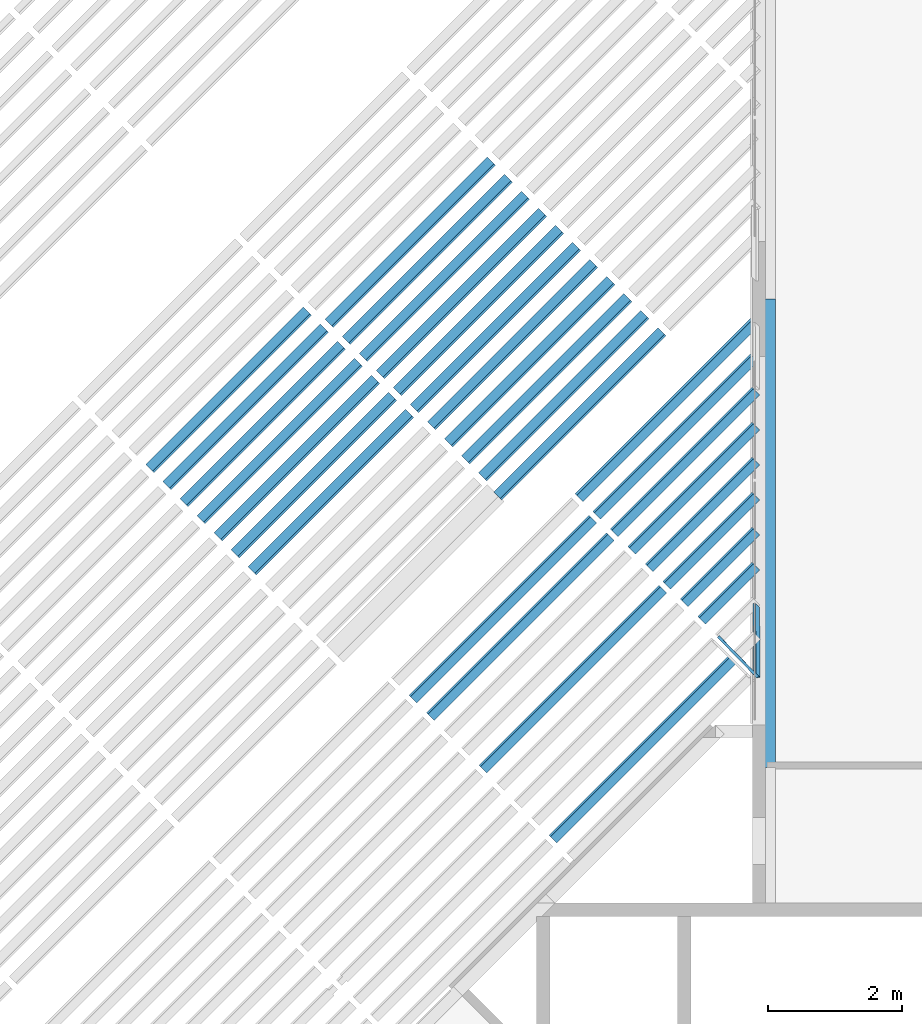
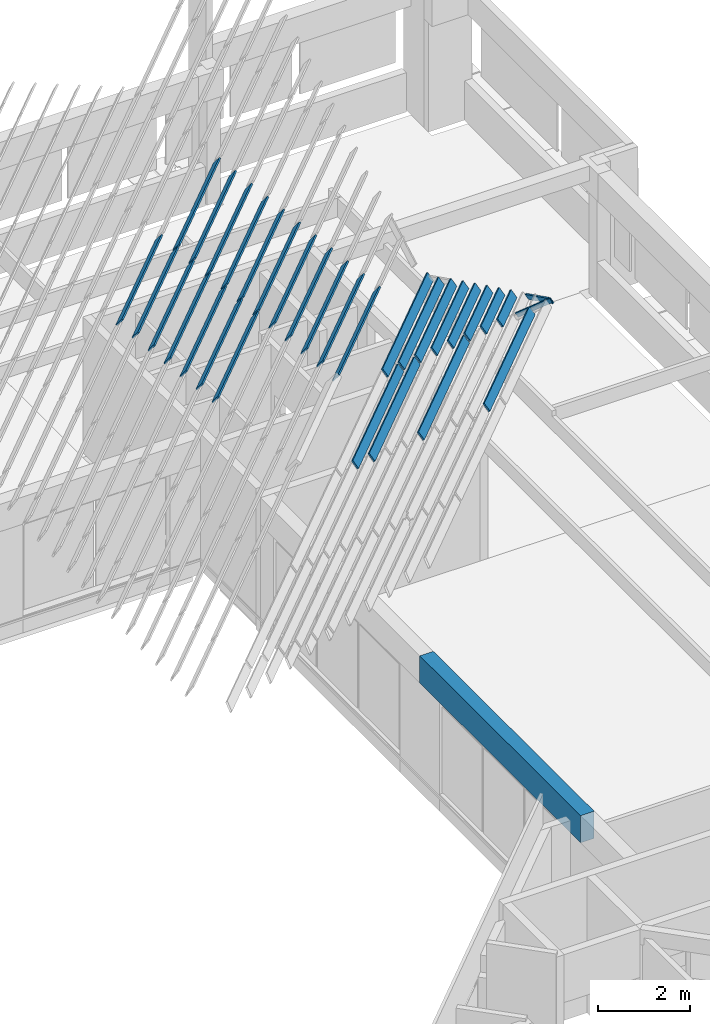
# One storey, part 10 of 37: 33 beams.
"""IFC4X3_ADD2 building model written with IfcOpenShell, lengths in millimetres."""

from ifc_helpers import new_model, si_unit, direction, frame, frame_2d, origin_with_axes, origin_2d_with_axis, place, context, subcontext, project, spatial, rectangle, extrude, source, transform, mapped, material, type_object, type_shapes, element, save


model = new_model("IFC4X3_ADD2")

# Units and contexts
model_context = context("Model", 3, precision=1e-05, world=origin_with_axes(), true_north=direction((0.0, 1.0)))
body_context = subcontext(model_context, "Body", "Model", "MODEL_VIEW")
ifc_project = project(units=[si_unit("LENGTHUNIT", "METRE", prefix="MILLI"), si_unit("AREAUNIT", "SQUARE_METRE"), si_unit("VOLUMEUNIT", "CUBIC_METRE"), si_unit("PLANEANGLEUNIT", "RADIAN"), si_unit("TIMEUNIT", "SECOND"), si_unit("MASSUNIT", "GRAM")], contexts=[model_context])

# Site, building, storey
site_placement = place(None, origin_with_axes())
site = spatial("IfcSite", under=ifc_project, at=site_placement, Name="Site", CompositionType="ELEMENT")
building_placement = place(site_placement, origin_with_axes())
building = spatial("IfcBuilding", under=site, at=building_placement, Name="IFC Building Story")
storey_placement = place(building_placement, frame((0.0, 0.0, 3600.0), z_axis=(0.0, 0.0, 1.0), x_axis=(1.0, 0.0, 0.0)))
storey = spatial("IfcBuildingStorey", under=building, at=storey_placement, Name="010", Elevation=3600.0)

# Beams
ifc_material_1 = material(Name="BB_Beton_Bestaand")
beam_type_1 = type_object("IfcBeamType", Name="BB_XX_Betonbalk_ rechthoekig_ center-center_SFB_340 x 720 mm145", PredefinedType="NOTDEFINED")
shared_shape_1 = source(origin_with_axes(), body_context, "Body", "SweptSolid", [
    extrude(rectangle(XDim=6979.999999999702, YDim=340.0, at=frame_2d((0.0, 0.0), x_axis=(0.0, 1.0))), frame((-12525.0, 25609.99999999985, 6280.0), z_axis=(0.0, 0.0, 1.0), x_axis=(1.0, 0.0, 0.0)), (0.0, 0.0, 1.0), 720.0),
])
type_shapes(beam_type_1, [shared_shape_1])
beam_1_placement = place(storey_placement, frame((0.0, 0.0, -3600.0), z_axis=(0.0, 0.0, 1.0), x_axis=(1.0, 0.0, 0.0)))
element("IfcBeam", 1, at=beam_1_placement, inside=storey, type_object=beam_type_1, material=ifc_material_1, Name="BB_XX_Betonbalk, rechthoekig, center-center_SFB:340 x 720 mm", ObjectType="340 x 720 mm", PredefinedType="BEAM", context=body_context, shape_type="MappedRepresentation", body=[
    mapped(shared_shape_1, transform((0.0, 0.0, 0.0))),
])
ifc_material_2 = material(Name="GVH_i2_naaldhout_generiek")
beam_type_2 = type_object("IfcBeamType", Name="28_SF_hout_rechthoekig_40 x 230_441", PredefinedType="NOTDEFINED")
shared_shape_2 = source(origin_with_axes(), body_context, "Body", "SweptSolid", [
    extrude(rectangle(XDim=3317.27999998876, YDim=40.0000000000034, at=origin_2d_with_axis()), frame((-36.38452901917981, 0.0, -115.0), z_axis=(0.0, 0.0, 1.0), x_axis=(1.0, 0.0, 0.0)), (0.0, 0.0, 1.0), 230.0),
])
type_shapes(beam_type_2, [shared_shape_2])
beam_2_placement = place(storey_placement, frame((-18998.8605097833, 26196.541294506, 15245.0766914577), z_axis=(0.4307932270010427, -0.4307932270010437, 0.7929907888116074), x_axis=(-0.7071067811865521, -0.707106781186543, 0.0)))
element("IfcBeam", 2, at=beam_2_placement, inside=storey, type_object=beam_type_2, material=ifc_material_2, Name="28_SF_hout_rechthoekig:40 x 230", ObjectType="40 x 230", PredefinedType="BEAM", context=body_context, shape_type="MappedRepresentation", body=[
    mapped(shared_shape_2, transform((0.0, 0.0, 0.0))),
])
beam_type_3 = type_object("IfcBeamType", Name="28_SF_hout_rechthoekig_40 x 230_443", PredefinedType="NOTDEFINED")
shared_shape_3 = source(origin_with_axes(), body_context, "Body", "SweptSolid", [
    extrude(rectangle(XDim=3317.279999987, YDim=40.0000000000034, at=origin_2d_with_axis()), frame((-36.38447795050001, 0.0, -115.0), z_axis=(0.0, 0.0, 1.0), x_axis=(1.0, 0.0, 0.0)), (0.0, 0.0, 1.0), 230.0),
])
type_shapes(beam_type_3, [shared_shape_3])
beam_3_placement = place(storey_placement, frame((-19252.87082116, 26450.5516058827, 15521.0595232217), z_axis=(0.4307932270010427, -0.4307932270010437, 0.7929907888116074), x_axis=(-0.7071067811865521, -0.707106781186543, 0.0)))
element("IfcBeam", 3, at=beam_3_placement, inside=storey, type_object=beam_type_3, material=ifc_material_2, Name="28_SF_hout_rechthoekig:40 x 230", ObjectType="40 x 230", PredefinedType="BEAM", context=body_context, shape_type="MappedRepresentation", body=[
    mapped(shared_shape_3, transform((0.0, 0.0, 0.0))),
])
beam_type_4 = type_object("IfcBeamType", Name="28_SF_hout_rechthoekig_40 x 230_445", PredefinedType="NOTDEFINED")
shared_shape_4 = source(origin_with_axes(), body_context, "Body", "SweptSolid", [
    extrude(rectangle(XDim=3317.27999998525, YDim=40.0000000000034, at=origin_2d_with_axis()), frame((-36.38442688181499, 0.0, -115.0), z_axis=(0.0, 0.0, 1.0), x_axis=(1.0, 0.0, 0.0)), (0.0, 0.0, 1.0), 230.0),
])
type_shapes(beam_type_4, [shared_shape_4])
beam_4_placement = place(storey_placement, frame((-19506.8811325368, 26704.5619172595, 15797.0423549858), z_axis=(0.4307932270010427, -0.4307932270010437, 0.7929907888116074), x_axis=(-0.7071067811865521, -0.707106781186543, 0.0)))
element("IfcBeam", 4, at=beam_4_placement, inside=storey, type_object=beam_type_4, material=ifc_material_2, Name="28_SF_hout_rechthoekig:40 x 230", ObjectType="40 x 230", PredefinedType="BEAM", context=body_context, shape_type="MappedRepresentation", body=[
    mapped(shared_shape_4, transform((0.0, 0.0, 0.0))),
])
beam_type_5 = type_object("IfcBeamType", Name="28_SF_hout_rechthoekig_40 x 230_447", PredefinedType="NOTDEFINED")
shared_shape_5 = source(origin_with_axes(), body_context, "Body", "SweptSolid", [
    extrude(rectangle(XDim=3317.27999998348, YDim=40.0000000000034, at=origin_2d_with_axis()), frame((-36.38437581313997, 0.0, -115.0), z_axis=(0.0, 0.0, 1.0), x_axis=(1.0, 0.0, 0.0)), (0.0, 0.0, 1.0), 230.0),
])
type_shapes(beam_type_5, [shared_shape_5])
beam_5_placement = place(storey_placement, frame((-19760.8914439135, 26958.5722286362, 16073.0251867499), z_axis=(0.4307932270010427, -0.4307932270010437, 0.7929907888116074), x_axis=(-0.7071067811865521, -0.707106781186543, 0.0)))
element("IfcBeam", 5, at=beam_5_placement, inside=storey, type_object=beam_type_5, material=ifc_material_2, Name="28_SF_hout_rechthoekig:40 x 230", ObjectType="40 x 230", PredefinedType="BEAM", context=body_context, shape_type="MappedRepresentation", body=[
    mapped(shared_shape_5, transform((0.0, 0.0, 0.0))),
])
beam_type_6 = type_object("IfcBeamType", Name="28_SF_hout_rechthoekig_40 x 230_449", PredefinedType="NOTDEFINED")
shared_shape_6 = source(origin_with_axes(), body_context, "Body", "SweptSolid", [
    extrude(rectangle(XDim=3317.27999998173, YDim=40.0000000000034, at=origin_2d_with_axis()), frame((-36.38432474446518, 0.0, -115.0), z_axis=(0.0, 0.0, 1.0), x_axis=(1.0, 0.0, 0.0)), (0.0, 0.0, 1.0), 230.0),
])
type_shapes(beam_type_6, [shared_shape_6])
beam_6_placement = place(storey_placement, frame((-20014.9017552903, 27212.582540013, 16349.008018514), z_axis=(0.4307932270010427, -0.4307932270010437, 0.7929907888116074), x_axis=(-0.7071067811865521, -0.707106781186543, 0.0)))
element("IfcBeam", 6, at=beam_6_placement, inside=storey, type_object=beam_type_6, material=ifc_material_2, Name="28_SF_hout_rechthoekig:40 x 230", ObjectType="40 x 230", PredefinedType="BEAM", context=body_context, shape_type="MappedRepresentation", body=[
    mapped(shared_shape_6, transform((0.0, 0.0, 0.0))),
])
beam_type_7 = type_object("IfcBeamType", Name="28_SF_hout_rechthoekig_40 x 230_451", PredefinedType="NOTDEFINED")
shared_shape_7 = source(origin_with_axes(), body_context, "Body", "SweptSolid", [
    extrude(rectangle(XDim=3317.27999997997, YDim=40.0000000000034, at=origin_2d_with_axis()), frame((-36.38427367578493, 0.0, -115.0), z_axis=(0.0, 0.0, 1.0), x_axis=(1.0, 0.0, 0.0)), (0.0, 0.0, 1.0), 230.0),
])
type_shapes(beam_type_7, [shared_shape_7])
beam_7_placement = place(storey_placement, frame((-20268.912066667, 27466.5928513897, 16624.9908502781), z_axis=(0.4307932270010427, -0.4307932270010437, 0.7929907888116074), x_axis=(-0.7071067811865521, -0.707106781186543, 0.0)))
element("IfcBeam", 7, at=beam_7_placement, inside=storey, type_object=beam_type_7, material=ifc_material_2, Name="28_SF_hout_rechthoekig:40 x 230", ObjectType="40 x 230", PredefinedType="BEAM", context=body_context, shape_type="MappedRepresentation", body=[
    mapped(shared_shape_7, transform((0.0, 0.0, 0.0))),
])
beam_type_8 = type_object("IfcBeamType", Name="28_SF_hout_rechthoekig_40 x 230_453", PredefinedType="NOTDEFINED")
shared_shape_8 = source(origin_with_axes(), body_context, "Body", "SweptSolid", [
    extrude(rectangle(XDim=3317.27999997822, YDim=40.0000000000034, at=origin_2d_with_axis()), frame((-36.3842226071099, 0.0, -115.0), z_axis=(0.0, 0.0, 1.0), x_axis=(1.0, 0.0, 0.0)), (0.0, 0.0, 1.0), 230.0),
])
type_shapes(beam_type_8, [shared_shape_8])
beam_8_placement = place(storey_placement, frame((-20522.9223780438, 27720.6031627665, 16900.9736820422), z_axis=(0.4307932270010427, -0.4307932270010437, 0.7929907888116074), x_axis=(-0.7071067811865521, -0.707106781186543, 0.0)))
element("IfcBeam", 8, at=beam_8_placement, inside=storey, type_object=beam_type_8, material=ifc_material_2, Name="28_SF_hout_rechthoekig:40 x 230", ObjectType="40 x 230", PredefinedType="BEAM", context=body_context, shape_type="MappedRepresentation", body=[
    mapped(shared_shape_8, transform((0.0, 0.0, 0.0))),
])
beam_type_9 = type_object("IfcBeamType", Name="28_SF_hout_rechthoekig_40 x 230_463", PredefinedType="NOTDEFINED")
shared_shape_9 = source(origin_with_axes(), body_context, "Body", "SweptSolid", [
    extrude(rectangle(XDim=3460.10208606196, YDim=40.0000000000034, at=origin_2d_with_axis()), frame((-2.751043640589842, 0.0, -115.0), z_axis=(0.0, 0.0, 1.0), x_axis=(1.0, 0.0, 0.0)), (0.0, 0.0, 1.0), 229.9999999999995),
])
type_shapes(beam_type_9, [shared_shape_9])
beam_9_placement = place(storey_placement, frame((-15269.7235665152, 27385.5751240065, 13865.1625326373), z_axis=(0.4307932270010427, -0.4307932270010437, 0.7929907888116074), x_axis=(-0.7071067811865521, -0.707106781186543, 0.0)))
element("IfcBeam", 9, at=beam_9_placement, inside=storey, type_object=beam_type_9, material=ifc_material_2, Name="28_SF_hout_rechthoekig:40 x 230", ObjectType="40 x 230", PredefinedType="BEAM", context=body_context, shape_type="MappedRepresentation", body=[
    mapped(shared_shape_9, transform((0.0, 0.0, 0.0))),
])
beam_type_10 = type_object("IfcBeamType", Name="28_SF_hout_rechthoekig_40 x 230_465", PredefinedType="NOTDEFINED")
shared_shape_10 = source(origin_with_axes(), body_context, "Body", "SweptSolid", [
    extrude(rectangle(XDim=3415.449257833, YDim=40.0000000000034, at=origin_2d_with_axis()), frame((-25.07745775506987, 0.0, -115.0), z_axis=(0.0, 0.0, 1.0), x_axis=(1.0, 0.0, 0.0)), (0.0, 0.0, 1.0), 229.9999999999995),
])
type_shapes(beam_type_10, [shared_shape_10])
beam_10_placement = place(storey_placement, frame((-15523.733877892, 27639.5854353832, 14141.1453644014), z_axis=(0.4307932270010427, -0.4307932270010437, 0.7929907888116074), x_axis=(-0.7071067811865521, -0.707106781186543, 0.0)))
element("IfcBeam", 10, at=beam_10_placement, inside=storey, type_object=beam_type_10, material=ifc_material_2, Name="28_SF_hout_rechthoekig:40 x 230", ObjectType="40 x 230", PredefinedType="BEAM", context=body_context, shape_type="MappedRepresentation", body=[
    mapped(shared_shape_10, transform((0.0, 0.0, 0.0))),
])
beam_type_11 = type_object("IfcBeamType", Name="28_SF_hout_rechthoekig_40 x 230_467", PredefinedType="NOTDEFINED")
shared_shape_11 = source(origin_with_axes(), body_context, "Body", "SweptSolid", [
    extrude(rectangle(XDim=3415.44930890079, YDim=40.0000000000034, at=origin_2d_with_axis()), frame((-25.07743222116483, 0.0, -115.0), z_axis=(0.0, 0.0, 1.0), x_axis=(1.0, 0.0, 0.0)), (0.0, 0.0, 1.0), 229.9999999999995),
])
type_shapes(beam_type_11, [shared_shape_11])
beam_11_placement = place(storey_placement, frame((-15777.7441892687, 27893.59574676, 14417.1281961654), z_axis=(0.4307932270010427, -0.4307932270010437, 0.7929907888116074), x_axis=(-0.7071067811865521, -0.707106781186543, 0.0)))
element("IfcBeam", 11, at=beam_11_placement, inside=storey, type_object=beam_type_11, material=ifc_material_2, Name="28_SF_hout_rechthoekig:40 x 230", ObjectType="40 x 230", PredefinedType="BEAM", context=body_context, shape_type="MappedRepresentation", body=[
    mapped(shared_shape_11, transform((0.0, 0.0, 0.0))),
])
beam_type_12 = type_object("IfcBeamType", Name="28_SF_hout_rechthoekig_40 x 230_469", PredefinedType="NOTDEFINED")
shared_shape_12 = source(origin_with_axes(), body_context, "Body", "SweptSolid", [
    extrude(rectangle(XDim=3415.4493599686, YDim=40.0000000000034, at=origin_2d_with_axis()), frame((-25.07740668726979, 0.0, -115.0), z_axis=(0.0, 0.0, 1.0), x_axis=(1.0, 0.0, 0.0)), (0.0, 0.0, 1.0), 229.9999999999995),
])
type_shapes(beam_type_12, [shared_shape_12])
beam_12_placement = place(storey_placement, frame((-16031.7545006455, 28147.6060581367, 14693.1110279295), z_axis=(0.4307932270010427, -0.4307932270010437, 0.7929907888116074), x_axis=(-0.7071067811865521, -0.707106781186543, 0.0)))
element("IfcBeam", 12, at=beam_12_placement, inside=storey, type_object=beam_type_12, material=ifc_material_2, Name="28_SF_hout_rechthoekig:40 x 230", ObjectType="40 x 230", PredefinedType="BEAM", context=body_context, shape_type="MappedRepresentation", body=[
    mapped(shared_shape_12, transform((0.0, 0.0, 0.0))),
])
beam_type_13 = type_object("IfcBeamType", Name="28_SF_hout_rechthoekig_40 x 230_471", PredefinedType="NOTDEFINED")
shared_shape_13 = source(origin_with_axes(), body_context, "Body", "SweptSolid", [
    extrude(rectangle(XDim=3415.4494110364, YDim=40.0000000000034, at=origin_2d_with_axis()), frame((-25.07738115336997, 0.0, -115.0), z_axis=(0.0, 0.0, 1.0), x_axis=(1.0, 0.0, 0.0)), (0.0, 0.0, 1.0), 229.9999999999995),
])
type_shapes(beam_type_13, [shared_shape_13])
beam_13_placement = place(storey_placement, frame((-16285.7648120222, 28401.6163695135, 14969.0938596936), z_axis=(0.4307932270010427, -0.4307932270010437, 0.7929907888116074), x_axis=(-0.7071067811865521, -0.707106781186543, 0.0)))
element("IfcBeam", 13, at=beam_13_placement, inside=storey, type_object=beam_type_13, material=ifc_material_2, Name="28_SF_hout_rechthoekig:40 x 230", ObjectType="40 x 230", PredefinedType="BEAM", context=body_context, shape_type="MappedRepresentation", body=[
    mapped(shared_shape_13, transform((0.0, 0.0, 0.0))),
])
beam_type_14 = type_object("IfcBeamType", Name="28_SF_hout_rechthoekig_40 x 230_473", PredefinedType="NOTDEFINED")
shared_shape_14 = source(origin_with_axes(), body_context, "Body", "SweptSolid", [
    extrude(rectangle(XDim=3415.4494621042, YDim=40.0000000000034, at=origin_2d_with_axis()), frame((-25.07735561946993, 0.0, -115.0), z_axis=(0.0, 0.0, 1.0), x_axis=(1.0, 0.0, 0.0)), (0.0, 0.0, 1.0), 229.9999999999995),
])
type_shapes(beam_type_14, [shared_shape_14])
beam_14_placement = place(storey_placement, frame((-16539.775123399, 28655.6266808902, 15245.0766914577), z_axis=(0.4307932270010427, -0.4307932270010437, 0.7929907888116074), x_axis=(-0.7071067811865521, -0.707106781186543, 0.0)))
element("IfcBeam", 14, at=beam_14_placement, inside=storey, type_object=beam_type_14, material=ifc_material_2, Name="28_SF_hout_rechthoekig:40 x 230", ObjectType="40 x 230", PredefinedType="BEAM", context=body_context, shape_type="MappedRepresentation", body=[
    mapped(shared_shape_14, transform((0.0, 0.0, 0.0))),
])
beam_type_15 = type_object("IfcBeamType", Name="28_SF_hout_rechthoekig_40 x 230_475", PredefinedType="NOTDEFINED")
shared_shape_15 = source(origin_with_axes(), body_context, "Body", "SweptSolid", [
    extrude(rectangle(XDim=3415.449513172, YDim=40.0000000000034, at=origin_2d_with_axis()), frame((-25.07733008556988, 0.0, -115.0), z_axis=(0.0, 0.0, 1.0), x_axis=(1.0, 0.0, 0.0)), (0.0, 0.0, 1.0), 229.9999999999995),
])
type_shapes(beam_type_15, [shared_shape_15])
beam_15_placement = place(storey_placement, frame((-16793.7854347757, 28909.636992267, 15521.0595232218), z_axis=(0.4307932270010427, -0.4307932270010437, 0.7929907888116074), x_axis=(-0.7071067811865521, -0.707106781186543, 0.0)))
element("IfcBeam", 15, at=beam_15_placement, inside=storey, type_object=beam_type_15, material=ifc_material_2, Name="28_SF_hout_rechthoekig:40 x 230", ObjectType="40 x 230", PredefinedType="BEAM", context=body_context, shape_type="MappedRepresentation", body=[
    mapped(shared_shape_15, transform((0.0, 0.0, 0.0))),
])
beam_type_16 = type_object("IfcBeamType", Name="28_SF_hout_rechthoekig_40 x 230_477", PredefinedType="NOTDEFINED")
shared_shape_16 = source(origin_with_axes(), body_context, "Body", "SweptSolid", [
    extrude(rectangle(XDim=3415.44956423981, YDim=40.0000000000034, at=origin_2d_with_axis()), frame((-25.07730455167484, 0.0, -115.0), z_axis=(0.0, 0.0, 1.0), x_axis=(1.0, 0.0, 0.0)), (0.0, 0.0, 1.0), 229.9999999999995),
])
type_shapes(beam_type_16, [shared_shape_16])
beam_16_placement = place(storey_placement, frame((-17047.7957461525, 29163.6473036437, 15797.0423549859), z_axis=(0.4307932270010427, -0.4307932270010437, 0.7929907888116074), x_axis=(-0.7071067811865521, -0.707106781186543, 0.0)))
element("IfcBeam", 16, at=beam_16_placement, inside=storey, type_object=beam_type_16, material=ifc_material_2, Name="28_SF_hout_rechthoekig:40 x 230", ObjectType="40 x 230", PredefinedType="BEAM", context=body_context, shape_type="MappedRepresentation", body=[
    mapped(shared_shape_16, transform((0.0, 0.0, 0.0))),
])
beam_type_17 = type_object("IfcBeamType", Name="28_SF_hout_rechthoekig_40 x 230_479", PredefinedType="NOTDEFINED")
shared_shape_17 = source(origin_with_axes(), body_context, "Body", "SweptSolid", [
    extrude(rectangle(XDim=3415.44961530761, YDim=40.0000000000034, at=origin_2d_with_axis()), frame((-25.0772790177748, 0.0, -115.0), z_axis=(0.0, 0.0, 1.0), x_axis=(1.0, 0.0, 0.0)), (0.0, 0.0, 1.0), 229.999999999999),
])
type_shapes(beam_type_17, [shared_shape_17])
beam_17_placement = place(storey_placement, frame((-17301.8060575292, 29417.6576150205, 16073.02518675), z_axis=(0.4307932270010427, -0.4307932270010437, 0.7929907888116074), x_axis=(-0.7071067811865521, -0.707106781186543, 0.0)))
element("IfcBeam", 17, at=beam_17_placement, inside=storey, type_object=beam_type_17, material=ifc_material_2, Name="28_SF_hout_rechthoekig:40 x 230", ObjectType="40 x 230", PredefinedType="BEAM", context=body_context, shape_type="MappedRepresentation", body=[
    mapped(shared_shape_17, transform((0.0, 0.0, 0.0))),
])
beam_type_18 = type_object("IfcBeamType", Name="28_SF_hout_rechthoekig_40 x 230_481", PredefinedType="NOTDEFINED")
shared_shape_18 = source(origin_with_axes(), body_context, "Body", "SweptSolid", [
    extrude(rectangle(XDim=3415.44966637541, YDim=40.0000000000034, at=origin_2d_with_axis()), frame((-25.07725348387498, 0.0, -115.0), z_axis=(0.0, 0.0, 1.0), x_axis=(1.0, 0.0, 0.0)), (0.0, 0.0, 1.0), 229.999999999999),
])
type_shapes(beam_type_18, [shared_shape_18])
beam_18_placement = place(storey_placement, frame((-17555.816368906, 29671.6679263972, 16349.008018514), z_axis=(0.4307932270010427, -0.4307932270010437, 0.7929907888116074), x_axis=(-0.7071067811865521, -0.707106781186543, 0.0)))
element("IfcBeam", 18, at=beam_18_placement, inside=storey, type_object=beam_type_18, material=ifc_material_2, Name="28_SF_hout_rechthoekig:40 x 230", ObjectType="40 x 230", PredefinedType="BEAM", context=body_context, shape_type="MappedRepresentation", body=[
    mapped(shared_shape_18, transform((0.0, 0.0, 0.0))),
])
beam_type_19 = type_object("IfcBeamType", Name="28_SF_hout_rechthoekig_40 x 230_483", PredefinedType="NOTDEFINED")
shared_shape_19 = source(origin_with_axes(), body_context, "Body", "SweptSolid", [
    extrude(rectangle(XDim=3415.44971744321, YDim=40.0000000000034, at=origin_2d_with_axis()), frame((-25.07722794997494, 0.0, -115.0), z_axis=(0.0, 0.0, 1.0), x_axis=(1.0, 0.0, 0.0)), (0.0, 0.0, 1.0), 229.999999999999),
])
type_shapes(beam_type_19, [shared_shape_19])
beam_19_placement = place(storey_placement, frame((-17809.8266802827, 29925.678237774, 16624.9908502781), z_axis=(0.4307932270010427, -0.4307932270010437, 0.7929907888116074), x_axis=(-0.7071067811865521, -0.707106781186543, 0.0)))
element("IfcBeam", 19, at=beam_19_placement, inside=storey, type_object=beam_type_19, material=ifc_material_2, Name="28_SF_hout_rechthoekig:40 x 230", ObjectType="40 x 230", PredefinedType="BEAM", context=body_context, shape_type="MappedRepresentation", body=[
    mapped(shared_shape_19, transform((0.0, 0.0, 0.0))),
])
beam_type_20 = type_object("IfcBeamType", Name="28_SF_hout_rechthoekig_40 x 230_649", PredefinedType="NOTDEFINED")
shared_shape_20 = source(origin_with_axes(), body_context, "Body", "SweptSolid", [
    extrude(rectangle(XDim=3790.44418588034, YDim=40.0000000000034, at=origin_2d_with_axis()), frame((153.2981758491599, 0.0, -115.0), z_axis=(0.0, 0.0, 1.0), x_axis=(1.0, 0.0, 0.0)), (0.0, 0.0, 1.0), 230.0),
])
type_shapes(beam_type_20, [shared_shape_20])
beam_20_placement = place(storey_placement, frame((-16522.2488674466, 24373.6514387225, 13840.1228165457), z_axis=(-0.4034072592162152, 0.4034072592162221, 0.8212948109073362), x_axis=(0.7071067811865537, 0.7071067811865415, 0.0)))
element("IfcBeam", 20, at=beam_20_placement, inside=storey, type_object=beam_type_20, material=ifc_material_2, Name="28_SF_hout_rechthoekig:40 x 230", ObjectType="40 x 230", PredefinedType="BEAM", context=body_context, shape_type="MappedRepresentation", body=[
    mapped(shared_shape_20, transform((0.0, 0.0, 0.0))),
])
beam_type_21 = type_object("IfcBeamType", Name="28_SF_hout_rechthoekig_40 x 230_651", PredefinedType="NOTDEFINED")
shared_shape_21 = source(origin_with_axes(), body_context, "Body", "SweptSolid", [
    extrude(rectangle(XDim=3790.44530930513, YDim=40.0000000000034, at=origin_2d_with_axis()), frame((153.2981680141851, 0.0, -115.0), z_axis=(0.0, 0.0, 1.0), x_axis=(1.0, 0.0, 0.0)), (0.0, 0.0, 1.0), 230.0),
])
type_shapes(beam_type_21, [shared_shape_21])
beam_21_placement = place(storey_placement, frame((-16261.4952020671, 24112.897773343, 14096.279120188), z_axis=(-0.4034072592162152, 0.4034072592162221, 0.8212948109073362), x_axis=(0.7071067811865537, 0.7071067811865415, 0.0)))
element("IfcBeam", 21, at=beam_21_placement, inside=storey, type_object=beam_type_21, material=ifc_material_2, Name="28_SF_hout_rechthoekig:40 x 230", ObjectType="40 x 230", PredefinedType="BEAM", context=body_context, shape_type="MappedRepresentation", body=[
    mapped(shared_shape_21, transform((0.0, 0.0, 0.0))),
])
beam_type_22 = type_object("IfcBeamType", Name="28_SF_hout_rechthoekig_40 x 230_657", PredefinedType="NOTDEFINED")
shared_shape_22 = source(origin_with_axes(), body_context, "Body", "SweptSolid", [
    extrude(rectangle(XDim=3790.44867957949, YDim=40.0000000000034, at=origin_2d_with_axis()), frame((153.2981445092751, 0.0, -115.0), z_axis=(0.0, 0.0, 1.0), x_axis=(1.0, 0.0, 0.0)), (0.0, 0.0, 1.0), 230.0),
])
type_shapes(beam_type_22, [shared_shape_22])
beam_22_placement = place(storey_placement, frame((-15479.2342059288, 23330.6367772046, 14864.7480311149), z_axis=(-0.4034072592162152, 0.4034072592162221, 0.8212948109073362), x_axis=(0.7071067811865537, 0.7071067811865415, 0.0)))
element("IfcBeam", 22, at=beam_22_placement, inside=storey, type_object=beam_type_22, material=ifc_material_2, Name="28_SF_hout_rechthoekig:40 x 230", ObjectType="40 x 230", PredefinedType="BEAM", context=body_context, shape_type="MappedRepresentation", body=[
    mapped(shared_shape_22, transform((0.0, 0.0, 0.0))),
])
beam_type_23 = type_object("IfcBeamType", Name="28_SF_hout_rechthoekig_40 x 230_665", PredefinedType="NOTDEFINED")
shared_shape_23 = source(origin_with_axes(), body_context, "Body", "SweptSolid", [
    extrude(rectangle(XDim=3790.45261940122, YDim=40.0000000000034, at=origin_2d_with_axis()), frame((153.2978362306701, 0.0, -115.0), z_axis=(0.0, 0.0, 1.0), x_axis=(1.0, 0.0, 0.0)), (0.0, 0.0, 1.0), 230.0),
])
type_shapes(beam_type_23, [shared_shape_23])
beam_23_placement = place(storey_placement, frame((-14436.2195444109, 22287.6221156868, 15889.3732456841), z_axis=(-0.4034072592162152, 0.4034072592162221, 0.8212948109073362), x_axis=(0.7071067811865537, 0.7071067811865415, 0.0)))
element("IfcBeam", 23, at=beam_23_placement, inside=storey, type_object=beam_type_23, material=ifc_material_2, Name="28_SF_hout_rechthoekig:40 x 230", ObjectType="40 x 230", PredefinedType="BEAM", context=body_context, shape_type="MappedRepresentation", body=[
    mapped(shared_shape_23, transform((0.0, 0.0, 0.0))),
])
beam_type_24 = type_object("IfcBeamType", Name="28_SF_hout_rechthoekig_40 x 230_669", PredefinedType="NOTDEFINED")
shared_shape_24 = source(origin_with_axes(), body_context, "Body", "SweptSolid", [
    extrude(rectangle(XDim=3771.92955517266, YDim=40.0000000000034, at=origin_2d_with_axis()), frame((144.0410825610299, 0.0, -115.0), z_axis=(0.0, 0.0, 1.0), x_axis=(1.0, 0.0, 0.0)), (0.0, 0.0, 1.0), 229.9999999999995),
])
type_shapes(beam_type_24, [shared_shape_24])
beam_24_placement = place(storey_placement, frame((-14046.1857514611, 27371.2218854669, 13583.9665129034), z_axis=(-0.4034072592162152, 0.4034072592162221, 0.8212948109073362), x_axis=(0.7071067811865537, 0.7071067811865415, 0.0)))
element("IfcBeam", 24, at=beam_24_placement, inside=storey, type_object=beam_type_24, material=ifc_material_2, Name="28_SF_hout_rechthoekig:40 x 230", ObjectType="40 x 230", PredefinedType="BEAM", context=body_context, shape_type="MappedRepresentation", body=[
    mapped(shared_shape_24, transform((0.0, 0.0, 0.0))),
])
beam_type_25 = type_object("IfcBeamType", Name="28_SF_hout_rechthoekig_40 x 230_671", PredefinedType="NOTDEFINED")
shared_shape_25 = source(origin_with_axes(), body_context, "Body", "SweptSolid", [
    extrude(rectangle(XDim=3315.8757169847, YDim=40.0000000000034, at=origin_2d_with_axis()), frame((-83.98528265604, 0.0, -115.0), z_axis=(0.0, 0.0, 1.0), x_axis=(1.0, 0.0, 0.0)), (0.0, 0.0, 1.0), 230.0),
])
type_shapes(beam_type_25, [shared_shape_25])
beam_25_placement = place(storey_placement, frame((-13785.4320860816, 27110.4682200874, 13840.1228165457), z_axis=(-0.4034072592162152, 0.4034072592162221, 0.8212948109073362), x_axis=(0.7071067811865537, 0.7071067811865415, 0.0)))
element("IfcBeam", 25, at=beam_25_placement, inside=storey, type_object=beam_type_25, material=ifc_material_2, Name="28_SF_hout_rechthoekig:40 x 230", ObjectType="40 x 230", PredefinedType="BEAM", context=body_context, shape_type="MappedRepresentation", body=[
    mapped(shared_shape_25, transform((0.0, 0.0, 0.0))),
])
beam_type_26 = type_object("IfcBeamType", Name="28_SF_hout_rechthoekig_40 x 230_673", PredefinedType="NOTDEFINED")
shared_shape_26 = source(origin_with_axes(), body_context, "Body", "SweptSolid", [
    extrude(rectangle(XDim=2984.41043235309, YDim=40.0000000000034, at=origin_2d_with_axis()), frame((-249.7173710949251, 0.0, -115.0), z_axis=(0.0, 0.0, 1.0), x_axis=(1.0, 0.0, 0.0)), (0.0, 0.0, 1.0), 230.0),
])
type_shapes(beam_type_26, [shared_shape_26])
beam_26_placement = place(storey_placement, frame((-13524.6784207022, 26849.7145547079, 14096.279120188), z_axis=(-0.4034072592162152, 0.4034072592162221, 0.8212948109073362), x_axis=(0.7071067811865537, 0.7071067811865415, 0.0)))
element("IfcBeam", 26, at=beam_26_placement, inside=storey, type_object=beam_type_26, material=ifc_material_2, Name="28_SF_hout_rechthoekig:40 x 230", ObjectType="40 x 230", PredefinedType="BEAM", context=body_context, shape_type="MappedRepresentation", body=[
    mapped(shared_shape_26, transform((0.0, 0.0, 0.0))),
])
beam_type_27 = type_object("IfcBeamType", Name="28_SF_hout_rechthoekig_40 x 230_675", PredefinedType="NOTDEFINED")
shared_shape_27 = source(origin_with_axes(), body_context, "Body", "SweptSolid", [
    extrude(rectangle(XDim=2615.66979965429, YDim=40.0000000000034, at=origin_2d_with_axis()), frame((-434.0871335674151, 0.0, -115.0), z_axis=(0.0, 0.0, 1.0), x_axis=(1.0, 0.0, 0.0)), (0.0, 0.0, 1.0), 230.0),
])
type_shapes(beam_type_27, [shared_shape_27])
beam_27_placement = place(storey_placement, frame((-13263.9247553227, 26588.9608893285, 14352.4354238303), z_axis=(-0.4034072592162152, 0.4034072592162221, 0.8212948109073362), x_axis=(0.7071067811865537, 0.7071067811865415, 0.0)))
element("IfcBeam", 27, at=beam_27_placement, inside=storey, type_object=beam_type_27, material=ifc_material_2, Name="28_SF_hout_rechthoekig:40 x 230", ObjectType="40 x 230", PredefinedType="BEAM", context=body_context, shape_type="MappedRepresentation", body=[
    mapped(shared_shape_27, transform((0.0, 0.0, 0.0))),
])
beam_type_28 = type_object("IfcBeamType", Name="28_SF_hout_rechthoekig_40 x 230_677", PredefinedType="NOTDEFINED")
shared_shape_28 = source(origin_with_axes(), body_context, "Body", "SweptSolid", [
    extrude(rectangle(XDim=2246.89154092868, YDim=40.0000000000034, at=origin_2d_with_axis()), frame((-618.4757090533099, 0.0, -115.0), z_axis=(0.0, 0.0, 1.0), x_axis=(1.0, 0.0, 0.0)), (0.0, 0.0, 1.0), 230.0),
])
type_shapes(beam_type_28, [shared_shape_28])
beam_28_placement = place(storey_placement, frame((-13003.1710899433, 26328.207223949, 14608.5917274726), z_axis=(-0.4034072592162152, 0.4034072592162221, 0.8212948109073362), x_axis=(0.7071067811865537, 0.7071067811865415, 0.0)))
element("IfcBeam", 28, at=beam_28_placement, inside=storey, type_object=beam_type_28, material=ifc_material_2, Name="28_SF_hout_rechthoekig:40 x 230", ObjectType="40 x 230", PredefinedType="BEAM", context=body_context, shape_type="MappedRepresentation", body=[
    mapped(shared_shape_28, transform((0.0, 0.0, 0.0))),
])
beam_type_29 = type_object("IfcBeamType", Name="28_SF_hout_rechthoekig_40 x 230_679", PredefinedType="NOTDEFINED")
shared_shape_29 = source(origin_with_axes(), body_context, "Body", "SweptSolid", [
    extrude(rectangle(XDim=1878.13209505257, YDim=40.0000000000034, at=origin_2d_with_axis()), frame((-802.854878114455, 0.0, -115.0), z_axis=(0.0, 0.0, 1.0), x_axis=(1.0, 0.0, 0.0)), (0.0, 0.0, 1.0), 230.0),
])
type_shapes(beam_type_29, [shared_shape_29])
beam_29_placement = place(storey_placement, frame((-12742.4174245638, 26067.4535585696, 14864.7480311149), z_axis=(-0.4034072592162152, 0.4034072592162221, 0.8212948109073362), x_axis=(0.7071067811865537, 0.7071067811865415, 0.0)))
element("IfcBeam", 29, at=beam_29_placement, inside=storey, type_object=beam_type_29, material=ifc_material_2, Name="28_SF_hout_rechthoekig:40 x 230", ObjectType="40 x 230", PredefinedType="BEAM", context=body_context, shape_type="MappedRepresentation", body=[
    mapped(shared_shape_29, transform((0.0, 0.0, 0.0))),
])
beam_type_30 = type_object("IfcBeamType", Name="28_SF_hout_rechthoekig_40 x 230_681", PredefinedType="NOTDEFINED")
shared_shape_30 = source(origin_with_axes(), body_context, "Body", "SweptSolid", [
    extrude(rectangle(XDim=1509.39130675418, YDim=40.0000000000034, at=origin_2d_with_axis()), frame((-987.2247183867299, 0.0, -115.0), z_axis=(0.0, 0.0, 1.0), x_axis=(1.0, 0.0, 0.0)), (0.0, 0.0, 1.0), 230.0),
])
type_shapes(beam_type_30, [shared_shape_30])
beam_30_placement = place(storey_placement, frame((-12481.6637591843, 25806.6998931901, 15120.9043347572), z_axis=(-0.4034072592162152, 0.4034072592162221, 0.8212948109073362), x_axis=(0.7071067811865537, 0.7071067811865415, 0.0)))
element("IfcBeam", 30, at=beam_30_placement, inside=storey, type_object=beam_type_30, material=ifc_material_2, Name="28_SF_hout_rechthoekig:40 x 230", ObjectType="40 x 230", PredefinedType="BEAM", context=body_context, shape_type="MappedRepresentation", body=[
    mapped(shared_shape_30, transform((0.0, 0.0, 0.0))),
])
beam_type_31 = type_object("IfcBeamType", Name="28_SF_hout_rechthoekig_40 x 230_683", PredefinedType="NOTDEFINED")
shared_shape_31 = source(origin_with_axes(), body_context, "Body", "SweptSolid", [
    extrude(rectangle(XDim=1140.63186072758, YDim=40.0000000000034, at=origin_2d_with_axis()), frame((-1171.60388752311, 0.0, -115.0), z_axis=(0.0, 0.0, 1.0), x_axis=(1.0, 0.0, 0.0)), (0.0, 0.0, 1.0), 230.0),
])
type_shapes(beam_type_31, [shared_shape_31])
beam_31_placement = place(storey_placement, frame((-12220.9100938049, 25545.9462278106, 15377.0606383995), z_axis=(-0.4034072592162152, 0.4034072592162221, 0.8212948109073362), x_axis=(0.7071067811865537, 0.7071067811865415, 0.0)))
element("IfcBeam", 31, at=beam_31_placement, inside=storey, type_object=beam_type_31, material=ifc_material_2, Name="28_SF_hout_rechthoekig:40 x 230", ObjectType="40 x 230", PredefinedType="BEAM", context=body_context, shape_type="MappedRepresentation", body=[
    mapped(shared_shape_31, transform((0.0, 0.0, 0.0))),
])
beam_type_32 = type_object("IfcBeamType", Name="28_SF_hout_rechthoekig_40 x 150_3", PredefinedType="NOTDEFINED")
shared_shape_32 = source(origin_with_axes(), body_context, "Body", "SweptSolid", [
    extrude(rectangle(XDim=1163.27127137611, YDim=40.0000000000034, at=origin_2d_with_axis()), frame((1382.220829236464, 0.0, -75.0), z_axis=(0.0, 0.0, 1.0), x_axis=(1.0, 0.0, 0.0)), (0.0, 0.0, 1.0), 149.9999999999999),
])
type_shapes(beam_type_32, [shared_shape_32])
beam_32_placement = place(storey_placement, frame((-12642.8415463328, 25250.1024815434, 15309.0212477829), z_axis=(-0.4034060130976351, 0.4034085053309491, 0.8212948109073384), x_axis=(0.006322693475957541, -0.8963189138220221, 0.443364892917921)))
element("IfcBeam", 32, at=beam_32_placement, inside=storey, type_object=beam_type_32, material=ifc_material_2, Name="28_SF_hout_rechthoekig:40 x 150", ObjectType="40 x 150", PredefinedType="BEAM", context=body_context, shape_type="MappedRepresentation", body=[
    mapped(shared_shape_32, transform((0.0, 0.0, 0.0))),
])
beam_type_33 = type_object("IfcBeamType", Name="28_SF_hout_rechthoekig_40 x 120_1", PredefinedType="NOTDEFINED")
shared_shape_33 = source(origin_with_axes(), body_context, "Body", "SweptSolid", [
    extrude(rectangle(XDim=942.866737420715, YDim=40.0000000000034, at=origin_2d_with_axis()), frame((92.42309621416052, 0.0, -60.0), z_axis=(0.0, 0.0, 1.0), x_axis=(1.0, 0.0, 0.0)), (0.0, 0.0, 1.0), 119.9999999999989),
])
type_shapes(beam_type_33, [shared_shape_33])
beam_33_placement = place(storey_placement, frame((-12962.8625572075, 23822.8399144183, 15877.2520191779), z_axis=(-0.4034072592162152, 0.4034072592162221, 0.8212948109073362), x_axis=(0.5732578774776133, -0.5881638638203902, 0.5704723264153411)))
element("IfcBeam", 33, at=beam_33_placement, inside=storey, type_object=beam_type_33, material=ifc_material_2, Name="28_SF_hout_rechthoekig:40 x 120", ObjectType="40 x 120", PredefinedType="BEAM", context=body_context, shape_type="MappedRepresentation", body=[
    mapped(shared_shape_33, transform((0.0, 0.0, 0.0))),
])

save(model, "model.ifc")
